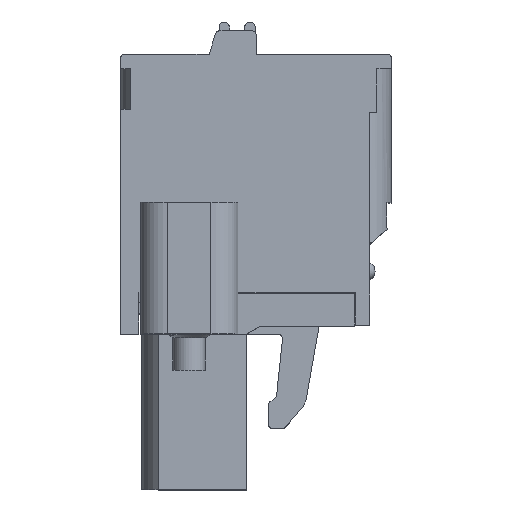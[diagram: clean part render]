
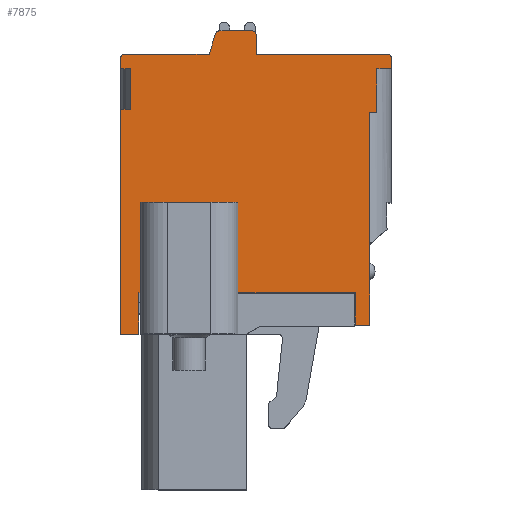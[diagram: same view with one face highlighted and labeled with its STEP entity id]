
A CAD part, top view. The second image highlights one B-rep face of the part: STEP entity #7875.
In plain terms, the highlighted planar face has unit normal (0, 0, 1).
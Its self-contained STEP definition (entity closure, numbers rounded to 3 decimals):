
#801=DIRECTION('',(1.,0.,0.));
#802=VECTOR('',#801,5.4);
#803=CARTESIAN_POINT('',(-6.4,7.3,33.33));
#804=LINE('',#803,#802);
#831=DIRECTION('',(0.,-1.,0.));
#832=VECTOR('',#831,5.);
#833=CARTESIAN_POINT('',(-1.,7.3,33.33));
#834=LINE('',#833,#832);
#863=DIRECTION('',(0.,-1.,0.));
#864=VECTOR('',#863,5.);
#865=CARTESIAN_POINT('',(-6.4,7.3,33.33));
#866=LINE('',#865,#864);
#867=DIRECTION('',(-1.,0.,0.));
#868=VECTOR('',#867,0.1);
#869=CARTESIAN_POINT('',(-6.4,2.3,33.33));
#870=LINE('',#869,#868);
#871=DIRECTION('',(0.,-1.,0.));
#872=VECTOR('',#871,2.3);
#873=CARTESIAN_POINT('',(-6.5,2.3,33.33));
#874=LINE('',#873,#872);
#875=DIRECTION('',(-1.,0.,0.));
#876=VECTOR('',#875,1.);
#877=CARTESIAN_POINT('',(-6.5,0.,33.33));
#878=LINE('',#877,#876);
#879=DIRECTION('',(0.,1.,0.));
#880=VECTOR('',#879,12.45);
#881=CARTESIAN_POINT('',(-7.5,0.,33.33));
#882=LINE('',#881,#880);
#883=DIRECTION('',(1.,0.,0.));
#884=VECTOR('',#883,0.55);
#885=CARTESIAN_POINT('',(-7.5,12.45,33.33));
#886=LINE('',#885,#884);
#887=DIRECTION('',(0.,1.,0.));
#888=VECTOR('',#887,2.25);
#889=CARTESIAN_POINT('',(-6.95,12.45,33.33));
#890=LINE('',#889,#888);
#891=DIRECTION('',(0.,1.,0.));
#892=VECTOR('',#891,0.6);
#893=CARTESIAN_POINT('',(-7.5,14.7,33.33));
#894=LINE('',#893,#892);
#895=CARTESIAN_POINT('',(-7.3,15.3,33.33));
#896=DIRECTION('',(0.,0.,-1.));
#897=DIRECTION('',(-1.,0.,0.));
#898=AXIS2_PLACEMENT_3D('',#895,#896,#897);
#900=DIRECTION('',(0.292,0.956,0.));
#901=VECTOR('',#900,1.211);
#902=CARTESIAN_POINT('',(-2.597,15.5,33.33));
#903=LINE('',#902,#901);
#904=CARTESIAN_POINT('',(-2.052,16.6,33.33));
#905=DIRECTION('',(0.,0.,-1.));
#906=DIRECTION('',(-0.956,0.292,0.));
#907=AXIS2_PLACEMENT_3D('',#904,#905,#906);
#909=DIRECTION('',(1.,0.,0.));
#910=VECTOR('',#909,1.852);
#911=CARTESIAN_POINT('',(-2.052,16.8,33.33));
#912=LINE('',#911,#910);
#913=CARTESIAN_POINT('',(-0.2,16.6,33.33));
#914=DIRECTION('',(0.,0.,-1.));
#915=DIRECTION('',(0.,1.,0.));
#916=AXIS2_PLACEMENT_3D('',#913,#914,#915);
#918=DIRECTION('',(0.,-1.,0.));
#919=VECTOR('',#918,1.1);
#920=CARTESIAN_POINT('',(0.,16.6,33.33));
#921=LINE('',#920,#919);
#922=CARTESIAN_POINT('',(7.3,15.3,33.33));
#923=DIRECTION('',(0.,0.,-1.));
#924=DIRECTION('',(0.,1.,0.));
#925=AXIS2_PLACEMENT_3D('',#922,#923,#924);
#927=DIRECTION('',(0.,-1.,0.));
#928=VECTOR('',#927,0.6);
#929=CARTESIAN_POINT('',(7.5,15.3,33.33));
#930=LINE('',#929,#928);
#931=DIRECTION('',(-1.,0.,0.));
#932=VECTOR('',#931,0.8);
#933=CARTESIAN_POINT('',(7.5,14.7,33.33));
#934=LINE('',#933,#932);
#935=DIRECTION('',(0.,-1.,0.));
#936=VECTOR('',#935,2.4);
#937=CARTESIAN_POINT('',(6.7,14.7,33.33));
#938=LINE('',#937,#936);
#939=DIRECTION('',(-1.,0.,0.));
#940=VECTOR('',#939,0.4);
#941=CARTESIAN_POINT('',(6.7,12.3,33.33));
#942=LINE('',#941,#940);
#943=DIRECTION('',(0.,-1.,0.));
#944=VECTOR('',#943,11.8);
#945=CARTESIAN_POINT('',(6.3,12.3,33.33));
#946=LINE('',#945,#944);
#947=DIRECTION('',(-1.,0.,0.));
#948=VECTOR('',#947,0.8);
#949=CARTESIAN_POINT('',(6.3,0.5,33.33));
#950=LINE('',#949,#948);
#951=DIRECTION('',(0.,1.,0.));
#952=VECTOR('',#951,1.8);
#953=CARTESIAN_POINT('',(5.5,0.5,33.33));
#954=LINE('',#953,#952);
#955=DIRECTION('',(-1.,0.,0.));
#956=VECTOR('',#955,6.5);
#957=CARTESIAN_POINT('',(5.5,2.3,33.33));
#958=LINE('',#957,#956);
#1429=DIRECTION('',(-1.,0.,0.));
#1430=VECTOR('',#1429,7.3);
#1431=CARTESIAN_POINT('',(7.3,15.5,33.33));
#1432=LINE('',#1431,#1430);
#1599=DIRECTION('',(-1.,0.,0.));
#1600=VECTOR('',#1599,4.703);
#1601=CARTESIAN_POINT('',(-2.597,15.5,33.33));
#1602=LINE('',#1601,#1600);
#3395=DIRECTION('',(1.,0.,0.));
#3396=VECTOR('',#3395,0.55);
#3397=CARTESIAN_POINT('',(-7.5,14.7,33.33));
#3398=LINE('',#3397,#3396);
#5134=CARTESIAN_POINT('',(5.5,2.3,33.33));
#5136=VERTEX_POINT('',#5134);
#5138=CARTESIAN_POINT('',(5.5,0.5,33.33));
#5139=VERTEX_POINT('',#5138);
#5154=CARTESIAN_POINT('',(6.3,0.5,33.33));
#5156=VERTEX_POINT('',#5154);
#5176=CARTESIAN_POINT('',(6.3,12.3,33.33));
#5177=VERTEX_POINT('',#5176);
#5244=CARTESIAN_POINT('',(7.3,15.5,33.33));
#5245=VERTEX_POINT('',#5244);
#5246=CARTESIAN_POINT('',(0.,15.5,33.33));
#5247=VERTEX_POINT('',#5246);
#5336=CARTESIAN_POINT('',(-6.5,0.,33.33));
#5337=VERTEX_POINT('',#5336);
#5338=CARTESIAN_POINT('',(-6.5,2.3,33.33));
#5339=VERTEX_POINT('',#5338);
#5345=CARTESIAN_POINT('',(-7.3,15.5,33.33));
#5347=VERTEX_POINT('',#5345);
#5368=CARTESIAN_POINT('',(-2.597,15.5,33.33));
#5369=VERTEX_POINT('',#5368);
#5394=CARTESIAN_POINT('',(-7.5,15.3,33.33));
#5396=VERTEX_POINT('',#5394);
#5406=CARTESIAN_POINT('',(-7.5,14.7,33.33));
#5407=VERTEX_POINT('',#5406);
#5436=CARTESIAN_POINT('',(-6.95,14.7,33.33));
#5437=VERTEX_POINT('',#5436);
#5438=CARTESIAN_POINT('',(-6.95,12.45,33.33));
#5439=VERTEX_POINT('',#5438);
#5440=CARTESIAN_POINT('',(-6.4,7.3,33.33));
#5441=CARTESIAN_POINT('',(-6.4,2.3,33.33));
#5442=VERTEX_POINT('',#5440);
#5443=VERTEX_POINT('',#5441);
#5444=CARTESIAN_POINT('',(-7.5,0.,33.33));
#5445=VERTEX_POINT('',#5444);
#5446=CARTESIAN_POINT('',(-7.5,12.45,33.33));
#5447=VERTEX_POINT('',#5446);
#5448=CARTESIAN_POINT('',(-2.243,16.658,33.33));
#5449=VERTEX_POINT('',#5448);
#5450=CARTESIAN_POINT('',(-2.052,16.8,33.33));
#5451=VERTEX_POINT('',#5450);
#5452=CARTESIAN_POINT('',(-0.2,16.8,33.33));
#5453=VERTEX_POINT('',#5452);
#5454=CARTESIAN_POINT('',(0.,16.6,33.33));
#5455=VERTEX_POINT('',#5454);
#5456=CARTESIAN_POINT('',(7.5,15.3,33.33));
#5457=VERTEX_POINT('',#5456);
#5458=CARTESIAN_POINT('',(7.5,14.7,33.33));
#5459=VERTEX_POINT('',#5458);
#5460=CARTESIAN_POINT('',(6.7,14.7,33.33));
#5461=VERTEX_POINT('',#5460);
#5462=CARTESIAN_POINT('',(6.7,12.3,33.33));
#5463=VERTEX_POINT('',#5462);
#5464=CARTESIAN_POINT('',(-1.,2.3,33.33));
#5465=VERTEX_POINT('',#5464);
#5466=CARTESIAN_POINT('',(-1.,7.3,33.33));
#5467=VERTEX_POINT('',#5466);
#7819=CARTESIAN_POINT('',(0.,0.,33.33));
#7820=DIRECTION('',(0.,0.,1.));
#7821=DIRECTION('',(0.,-1.,0.));
#7822=AXIS2_PLACEMENT_3D('',#7819,#7820,#7821);
#7823=PLANE('',#7822);
#7824=ORIENTED_EDGE('',*,*,#7790,.T.);
#7825=ORIENTED_EDGE('',*,*,#7805,.T.);
#7826=ORIENTED_EDGE('',*,*,#7005,.T.);
#7828=ORIENTED_EDGE('',*,*,#7827,.T.);
#7830=ORIENTED_EDGE('',*,*,#7829,.T.);
#7832=ORIENTED_EDGE('',*,*,#7831,.T.);
#7834=ORIENTED_EDGE('',*,*,#7833,.T.);
#7836=ORIENTED_EDGE('',*,*,#7835,.F.);
#7838=ORIENTED_EDGE('',*,*,#7837,.T.);
#7840=ORIENTED_EDGE('',*,*,#7839,.T.);
#7842=ORIENTED_EDGE('',*,*,#7841,.F.);
#7844=ORIENTED_EDGE('',*,*,#7843,.T.);
#7846=ORIENTED_EDGE('',*,*,#7845,.T.);
#7848=ORIENTED_EDGE('',*,*,#7847,.T.);
#7850=ORIENTED_EDGE('',*,*,#7849,.T.);
#7852=ORIENTED_EDGE('',*,*,#7851,.T.);
#7854=ORIENTED_EDGE('',*,*,#7853,.F.);
#7856=ORIENTED_EDGE('',*,*,#7855,.T.);
#7858=ORIENTED_EDGE('',*,*,#7857,.T.);
#7860=ORIENTED_EDGE('',*,*,#7859,.T.);
#7862=ORIENTED_EDGE('',*,*,#7861,.T.);
#7864=ORIENTED_EDGE('',*,*,#7863,.T.);
#7866=ORIENTED_EDGE('',*,*,#7865,.T.);
#7868=ORIENTED_EDGE('',*,*,#7867,.T.);
#7869=ORIENTED_EDGE('',*,*,#6843,.T.);
#7870=ORIENTED_EDGE('',*,*,#7810,.T.);
#7871=ORIENTED_EDGE('',*,*,#7760,.F.);
#7872=ORIENTED_EDGE('',*,*,#7723,.F.);
#7873=EDGE_LOOP('',(#7824,#7825,#7826,#7828,#7830,#7832,#7834,#7836,#7838,#7840,
#7842,#7844,#7846,#7848,#7850,#7852,#7854,#7856,#7858,#7860,#7862,#7864,#7866,
#7868,#7869,#7870,#7871,#7872));
#7874=FACE_OUTER_BOUND('',#7873,.F.);
#7875=ADVANCED_FACE('',(#7874),#7823,.T.);
#899=CIRCLE('',#898,0.2);
#908=CIRCLE('',#907,0.2);
#917=CIRCLE('',#916,0.2);
#926=CIRCLE('',#925,0.2);
#6843=EDGE_CURVE('',#5139,#5136,#954,.T.);
#7005=EDGE_CURVE('',#5339,#5337,#874,.T.);
#7723=EDGE_CURVE('',#5442,#5467,#804,.T.);
#7760=EDGE_CURVE('',#5467,#5465,#834,.T.);
#7790=EDGE_CURVE('',#5442,#5443,#866,.T.);
#7805=EDGE_CURVE('',#5443,#5339,#870,.T.);
#7810=EDGE_CURVE('',#5136,#5465,#958,.T.);
#7827=EDGE_CURVE('',#5337,#5445,#878,.T.);
#7829=EDGE_CURVE('',#5445,#5447,#882,.T.);
#7831=EDGE_CURVE('',#5447,#5439,#886,.T.);
#7833=EDGE_CURVE('',#5439,#5437,#890,.T.);
#7835=EDGE_CURVE('',#5407,#5437,#3398,.T.);
#7837=EDGE_CURVE('',#5407,#5396,#894,.T.);
#7839=EDGE_CURVE('',#5396,#5347,#899,.T.);
#7841=EDGE_CURVE('',#5369,#5347,#1602,.T.);
#7843=EDGE_CURVE('',#5369,#5449,#903,.T.);
#7845=EDGE_CURVE('',#5449,#5451,#908,.T.);
#7847=EDGE_CURVE('',#5451,#5453,#912,.T.);
#7849=EDGE_CURVE('',#5453,#5455,#917,.T.);
#7851=EDGE_CURVE('',#5455,#5247,#921,.T.);
#7853=EDGE_CURVE('',#5245,#5247,#1432,.T.);
#7855=EDGE_CURVE('',#5245,#5457,#926,.T.);
#7857=EDGE_CURVE('',#5457,#5459,#930,.T.);
#7859=EDGE_CURVE('',#5459,#5461,#934,.T.);
#7861=EDGE_CURVE('',#5461,#5463,#938,.T.);
#7863=EDGE_CURVE('',#5463,#5177,#942,.T.);
#7865=EDGE_CURVE('',#5177,#5156,#946,.T.);
#7867=EDGE_CURVE('',#5156,#5139,#950,.T.);
